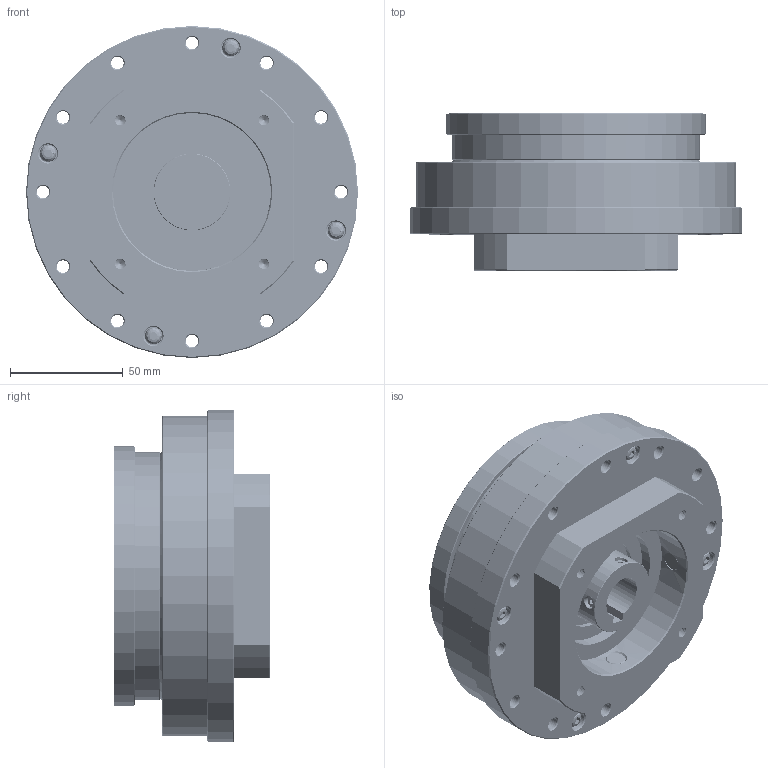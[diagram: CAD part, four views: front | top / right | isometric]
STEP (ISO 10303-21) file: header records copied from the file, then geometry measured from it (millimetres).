
FILE_DESCRIPTION(/* description */ (''),/* implementation_level */ '2;1');
FILE_NAME(/* name */ 'FA32.stp',/* time_stamp */ '2025-05-07T08:41:32+08:00',/* author */ (''),/* organization */ (''),/* preprocessor_version */ 'ST-DEVELOPER v16',/* originating_system */ 'SIEMENS PLM Software NX 10.0',/* authorisation */ '');
FILE_SCHEMA (('CONFIG_CONTROL_DESIGN'));
Products named in the file (48): FA32_id6_x_t; FA32_id17_x_t; FA32_id22_x_t; 倒角1_id27_x_t; FA32_id32_x_t; FA32_id37_x_t; FA32_id42_x_t; FA32_id47_x_t; FA32_id52_x_t; FA32_id57_x_t; FA32_id64_x_t; FA32_id69_x_t; FA32_id74_x_t; FA32_id79_x_t; FA32_id84_x_t; FA32_id89_x_t; FA32_id94_x_t; FA32_id99_x_t; FA32_id104_x_t; FA32_id109_x_t; FA32_id114_x_t; FA32_id119_x_t; FA32_id124_x_t; FA32_id129_x_t; FA32_id134_x_t; FA32_id139_x_t; FA32_id144_x_t; FA32_id149_x_t; FA32_id154_x_t; FA32_id159_x_t; FA32_id164_x_t; FA32_id169_x_t; FA32_id174_x_t; FA32_id179_x_t; FA32_id184_x_t; FA32_id189_x_t; FA32_id194_x_t; FA32_id205_x_t; FA32_id210_x_t; FA32_id215_x_t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
Assembly tree (61 placements, depth 2):
  FA32_x_t
    FA32_id262_x_t  x2
    FA32_id257_x_t
    FA32_id252_x_t
    ZTD-32-K-7_id247_x_t
    FA32_id242_x_t
    FA32_id237_x_t
    FA32_id226_x_t  x4
    FA32_id215_x_t  x4
    FA32_id210_x_t
    FA32_id205_x_t
    FA32_id194_x_t  x4
    FA32_id189_x_t
    FA32_id184_x_t
    FA32_id179_x_t
    FA32_id174_x_t
    FA32_id169_x_t
    FA32_id164_x_t
    FA32_id159_x_t
    FA32_id154_x_t
    FA32_id149_x_t
    FA32_id144_x_t
    FA32_id139_x_t
    FA32_id134_x_t
    FA32_id129_x_t
    FA32_id124_x_t
    FA32_id119_x_t
    FA32_id114_x_t
    FA32_id109_x_t
    FA32_id104_x_t
    FA32_id99_x_t
    FA32_id94_x_t
    FA32_id89_x_t
    FA32_id84_x_t
    FA32_id79_x_t
    FA32_id74_x_t
    FA32_id69_x_t
    FA32_id64_x_t
    FA32_id57_x_t  x2
    FA32_id52_x_t
    FA32_id47_x_t
    FA32_id42_x_t
    FA32_id37_x_t
    FA32_id32_x_t
    倒角1_id27_x_t
    FA32_id22_x_t
    FA32_id17_x_t
    FA32_id6_x_t  x4
Bounding box: 147 x 69.5 x 147 mm (x, y, z)
Volume: 551020.8 mm3; surface area: 294980 mm2
Topology: 60 solids, 61 shells, 1622 faces, 4115 edges, 2666 vertices
Faces by surface type: plane 586, cylinder 427, cone 337, bspline 186, extrusion 48, sphere 23, torus 15
Full cylindrical faces by diameter (mm): 3.3 x56, 3.5 x5, 4.5 x20, 5.5 x70, 5.6 x5, 6 x1, 7.22 x4, 7.5 x12, 8 x8, 27.9 x1, 28.5 x1, 30 x4, 34 x1, 40.5 x1, 42 x1, 44 x1, 50 x1, 55 x3, 56 x1, 58 x1, 58.928 x1, 59.2 x1, 59.5 x2, 62 x4, 63.028 x2, 65 x1, 65.3 x1, 68.95 x1, 70 x1, 74.3 x1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
Entity records: 223663 total; most frequent: CARTESIAN_POINT 191005, DIRECTION 5116, ORIENTED_EDGE 5088, EDGE_CURVE 2544, AXIS2_PLACEMENT_3D 2159, EDGE_LOOP 2032, VERTEX_POINT 1928, FACE_BOUND 1391
